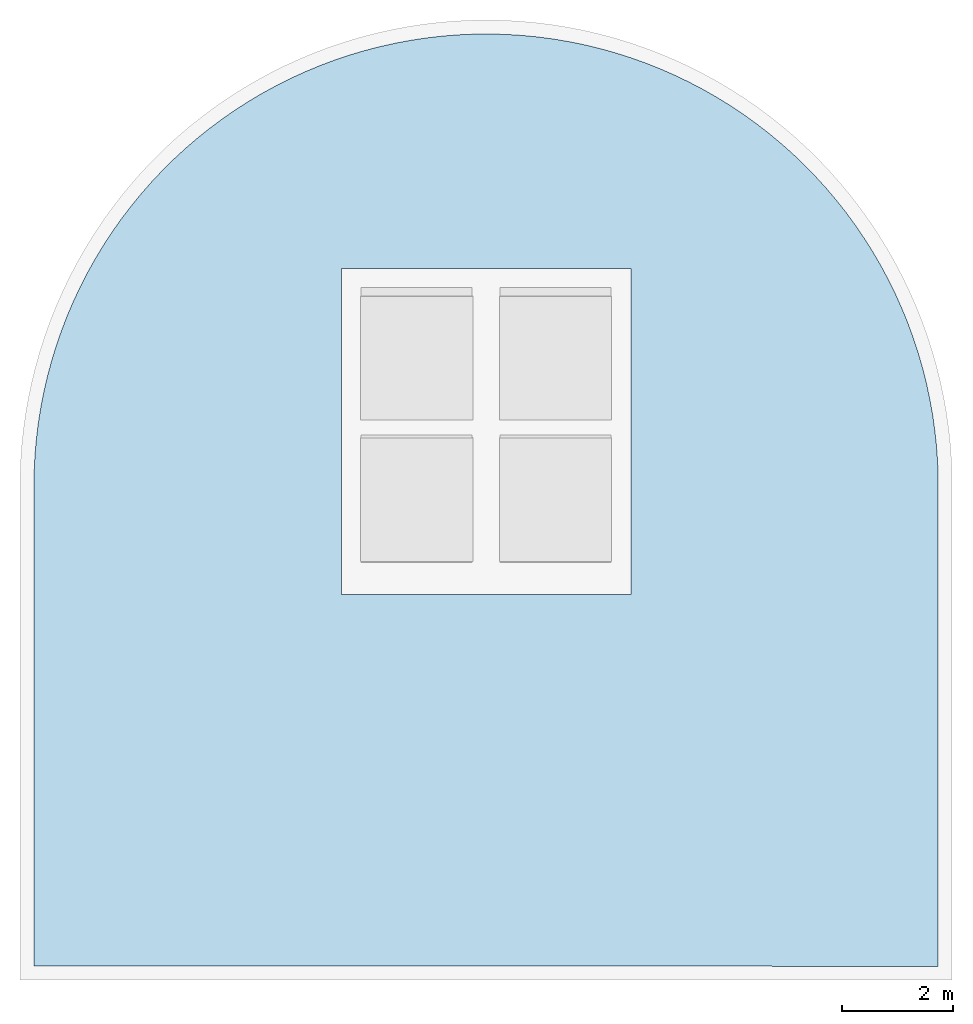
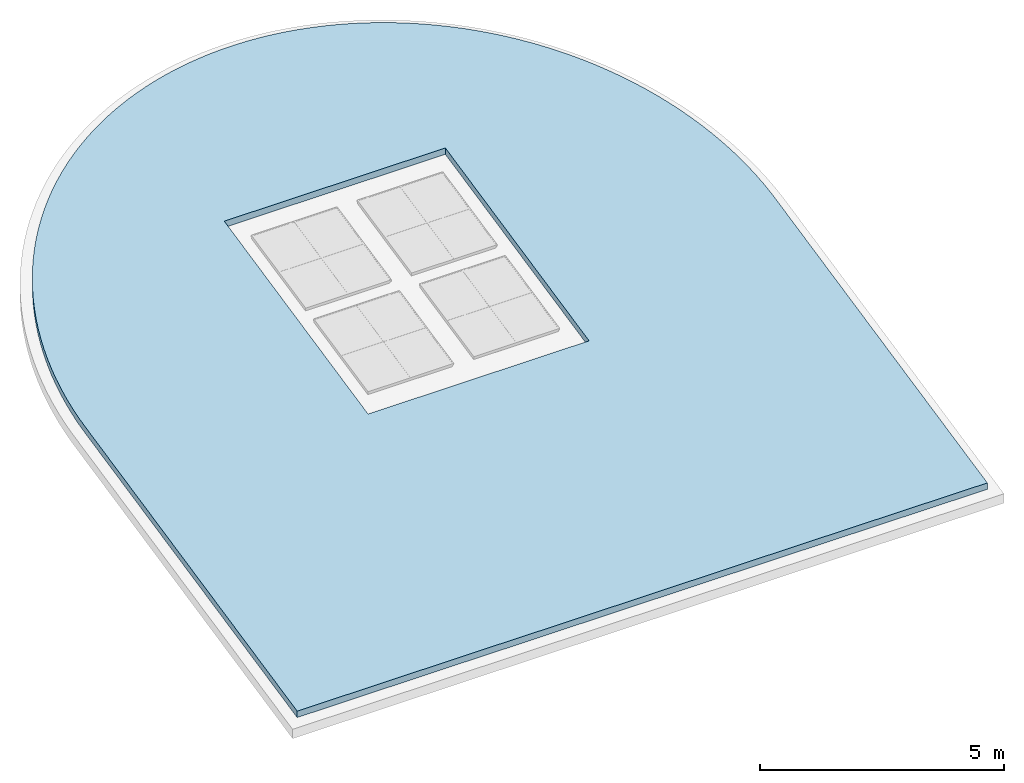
# One storey, incomplete: 1 slab.
"""IFC4 building model written with IfcOpenShell, lengths in millimetres."""

from ifc_helpers import new_model, entity, si_unit, converted_unit, derived_unit, direction, frame, origin_with_axes, place, context, subcontext, project, spatial, polygons, material, type_object, element, save


model = new_model("IFC4")

# Units and contexts
model_context = context("Model", 3, precision=0.01, world=origin_with_axes(), true_north=direction((0.0, 1.0)))
body_context = subcontext(model_context, "Body", "Model", "MODEL_VIEW")
ifc_project = project(units=[si_unit("LENGTHUNIT", "METRE", prefix="MILLI"), si_unit("AREAUNIT", "SQUARE_METRE"), si_unit("VOLUMEUNIT", "CUBIC_METRE"), converted_unit("PLANEANGLEUNIT", "DEGREE", entity("IfcPlaneAngleMeasure", 0.0174532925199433), si_unit("PLANEANGLEUNIT", "RADIAN"), dimensions=[0, 0, 0, 0, 0, 0, 0]), converted_unit("TIMEUNIT", "Year", entity("IfcTimeMeasure", 31557600.0), si_unit("TIMEUNIT", "SECOND"), dimensions=[0, 0, 1, 0, 0, 0, 0]), si_unit("MASSUNIT", "GRAM", prefix="KILO"), si_unit("THERMODYNAMICTEMPERATUREUNIT", "DEGREE_CELSIUS"), si_unit("LUMINOUSINTENSITYUNIT", "LUMEN"), si_unit("ENERGYUNIT", "JOULE", prefix="MEGA"), derived_unit("THERMALCONDUCTANCEUNIT", [(si_unit("POWERUNIT", "WATT"), 1), (si_unit("LENGTHUNIT", "METRE"), -1), (si_unit("THERMODYNAMICTEMPERATUREUNIT", "KELVIN"), -1)]), derived_unit("SPECIFICHEATCAPACITYUNIT", [(si_unit("ENERGYUNIT", "JOULE"), 1), (si_unit("MASSUNIT", "GRAM", prefix="KILO"), -1), (si_unit("THERMODYNAMICTEMPERATUREUNIT", "KELVIN"), -1)]), derived_unit("MASSDENSITYUNIT", [(si_unit("MASSUNIT", "GRAM", prefix="KILO"), 1), (si_unit("VOLUMEUNIT", "CUBIC_METRE"), -1)])], contexts=[model_context])

# Site, building, storey
site_placement = place(None, origin_with_axes())
site = spatial("IfcSite", under=ifc_project, at=site_placement, Name="Exteriér", CompositionType="ELEMENT")
building_placement = place(site_placement, origin_with_axes())
building = spatial("IfcBuilding", under=site, at=building_placement, Name="Univerzitní lezecké centrum", CompositionType="ELEMENT")
storey_placement = place(building_placement, frame((0.0, 0.0, 12800.0), z_axis=(0.0, 0.0, 1.0), x_axis=(1.0, 0.0, 0.0)))
storey = spatial("IfcBuildingStorey", under=building, at=storey_placement, Name="Střecha", CompositionType="ELEMENT", Elevation=12800.0)

# Slab
ifc_material = material(Name="Kačírek - frakce 16/32")
slab_type = type_object("IfcSlabType", Name="Kačírek - frakce 16/32 157", PredefinedType="ROOF")
slab_placement = place(storey_placement, frame((-4450.148401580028, -15002.51969503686, -3084.157369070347), z_axis=(0.0, 0.0, 1.0), x_axis=(1.0, 0.0, 0.0)))
element("IfcSlab", 1, at=slab_placement, inside=storey, type_object=slab_type, material=ifc_material, Name="S01", PredefinedType="ROOF", context=body_context, shape_type="Tessellation", body=[
    polygons([(15048.00005491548, 14747.01969408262, 3294.575801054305), (15047.9967137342, 23545.54068845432, 5164.75917139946), (15037.95842195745, 23831.4064963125, 5225.521824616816), (15017.89402871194, 24116.74392380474, 5286.172167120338), (14987.82825323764, 24401.20143653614, 5346.635477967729), (14947.79813643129, 24684.42858416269, 5406.837266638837), (14897.85299521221, 24966.07643214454, 5466.703364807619), (14838.05436176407, 25245.79799163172, 5526.16001771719), (14768.47590772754, 25523.24864695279, 5585.133975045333), (14689.20335343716, 25798.08658017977, 5643.552581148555), (14600.33436231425, 26069.97319224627, 5701.34386457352), (14501.9784205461, 26338.57352009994, 5758.436626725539), (14394.25670219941, 26603.55664937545, 5814.760529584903), (14277.30191993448, 26864.59612207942, 5870.246182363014), (14151.25816150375, 27121.37033878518, 5924.825226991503), (14016.28071223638, 27373.56295484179, 5978.430422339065), (13872.53586372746, 27620.86327010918, 6030.995727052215), (13720.20070896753, 27862.9666117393, 6082.456380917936), (13559.4629241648, 28099.57470953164, 6132.748984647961), (13390.52053752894, 28330.39606340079, 6181.811577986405), (13213.58168530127, 28555.14630250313, 6229.583716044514), (13028.86435533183, 28773.54853558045, 6276.006543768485), (12836.59611851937, 28985.33369208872, 6321.022868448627), (12637.01384844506, 29190.24085369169, 6364.577230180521), (12430.3634295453, 29388.01757571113, 6406.615970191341), (12216.89945418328, 29578.42019813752, 6447.08729694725), (11996.88490899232, 29761.21414581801, 6485.941349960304), (11770.59085087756, 29936.17421745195, 6523.130261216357), (11538.2960730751, 30103.08486303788, 6558.608214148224), (11300.28676168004, 30261.74044943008, 6592.331500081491), (11056.85614306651, 30411.94551367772, 6624.258572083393), (10808.30412263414, 30553.51500383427, 6654.35009614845), (10554.93691532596, 30686.27450694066, 6682.568999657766), (10297.06666837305, 30810.06046390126, 6708.880517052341), (10035.01107673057, 30924.72037098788, 6733.25223266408), (9769.09299167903, 31030.11296772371, 6755.654120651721), (9499.640023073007, 31126.10841091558, 6776.058581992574), (9226.984135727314, 31212.58843462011, 6794.440478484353), (8951.461240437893, 31289.44649584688, 6810.777163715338), (8673.41078014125, 31356.58790581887, 6825.048510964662), (8393.175311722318, 31413.92994662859, 6837.236937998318), (8111.100083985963, 31461.40197314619, 6847.327428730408), (7827.532612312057, 31498.94550005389, 6855.307551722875), (7542.822250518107, 31526.51427389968, 6861.167475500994), (7257.319760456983, 31544.0743300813, 6864.899980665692), (6971.376879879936, 31551.60403469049, 6866.500468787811), (6685.345889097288, 31549.09411116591, 6865.966968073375), (6399.579176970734, 31536.54765172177, 6863.300135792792), (6114.428806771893, 31513.98011353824, 6858.503257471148), (5830.246082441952, 31481.41929971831, 6851.582242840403), (5547.381115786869, 31438.90532503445, 6842.545618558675), (5266.182395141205, 31386.49056650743, 6831.40451770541), (4986.996356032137, 31324.23959887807, 6818.17266606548), (4710.166954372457, 31252.22911505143, 6802.866365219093), (4436.035242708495, 31170.54783161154, 6785.504472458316), (4164.938950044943, 31079.29637952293, 6766.108377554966), (3897.212065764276, 30978.58718015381, 6744.701976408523), (3633.18442815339, 30868.5443067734, 6721.311641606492), (3373.181318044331, 30749.30333169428, 6695.966189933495), (3117.523058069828, 30621.0111592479, 6668.696846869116), (2866.524618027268, 30483.82584479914, 6639.537208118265), (2620.495226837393, 30337.9164000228, 6608.523198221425), (2379.73799157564, 30183.46258468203, 6575.693026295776), (2144.549524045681, 30020.65468516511, 6541.08713896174), (1915.219575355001, 29849.69328005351, 6504.748170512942), (1692.030678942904, 29670.78899300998, 6466.720890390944), (1475.257802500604, 29484.1622332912, 6427.052148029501), (1265.16800921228, 29290.04292420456, 6385.790815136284), (1062.020128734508, 29088.67021984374, 6342.987725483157), (866.0644383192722, 28880.29221045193, 6298.695612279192), (677.5423544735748, 28665.16561677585, 6252.969043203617), (496.6861355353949, 28443.55547378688, 6205.864353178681), (323.7185955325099, 28215.73480415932, 6157.439574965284), (158.8528296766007, 27981.98428190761, 6107.754367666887), (2.291951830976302, 27742.5918865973, 6056.869943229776), (-145.7711557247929, 27497.85254855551, 6004.848991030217), (-285.1540799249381, 27248.06778551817, 5951.755600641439), (-415.6851016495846, 26993.54533116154, 5897.65518287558), (-537.2034072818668, 26734.59875597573, 5842.614389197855), (-649.5592868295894, 26471.5470809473, 5786.701029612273), (-752.6143183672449, 26204.71438452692, 5729.983989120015), (-846.2415385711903, 25934.42940336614, 5672.533142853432), (-930.3255991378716, 25661.02512731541, 5614.419269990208), (-1004.762908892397, 25384.83838918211, 5555.713966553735), (-1069.46176141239, 25106.20944975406, 5496.489557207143), (-1124.342448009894, 24825.48157859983, 5436.819006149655), (-1169.337355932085, 24543.00063116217, 5376.775827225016), (-1204.391051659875, 24259.11462266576, 5316.433993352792), (-1229.460349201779, 23974.173299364, 5255.867845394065), (-1244.514363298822, 23688.52770765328, 5195.152000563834), (-1248.279448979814, 23402.52976080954, 5134.361260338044), (-1247.000294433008, 14754.51969503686, 3296.16997546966), (3530.46782133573, 14754.51969498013, 3296.169975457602), (3530.467821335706, 14752.51969498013, 3295.744862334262), (10414.25656079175, 14752.51969498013, 3295.744862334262), (9509.850841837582, 21446.0680775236, 4718.502491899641), (4289.999999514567, 21446.0680775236, 4718.502491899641), (4289.999999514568, 27326.09003527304, 5968.339741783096), (9509.850841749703, 27326.09003518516, 5968.339741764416), (15048.00006766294, 14747.01969434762, 3134.575801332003), (15047.99672607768, 23545.54033756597, 5004.759097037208), (15037.95842176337, 23831.40649524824, 5065.521824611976), (15017.89402847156, 24116.74392612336, 5126.172167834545), (14987.82825312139, 24401.20143392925, 5186.63547763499), (14947.79813634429, 24684.42858487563, 5246.837267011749), (14897.85299516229, 24966.07643341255, 5306.703365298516), (14838.05436185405, 25245.79799119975, 5366.160017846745), (14768.47590790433, 25523.24864612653, 5425.133975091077), (14689.20335306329, 25798.08658173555, 5483.552581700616), (14600.33436276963, 26069.97318995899, 5541.343864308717), (14501.97842053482, 26338.57351991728, 5598.436626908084), (14394.2567017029, 26603.55665108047, 5654.760530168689), (14277.30192044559, 26864.59612036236, 5710.246182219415), (14151.25816108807, 27121.3703393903, 5764.825227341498), (14016.28071264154, 27373.56295411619, 5818.430422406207), (13872.53586335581, 27620.86327113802, 5870.995727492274), (13720.20070952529, 27862.96661107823, 5922.456380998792), (13559.46292308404, 28099.57471170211, 5972.748985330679), (13390.52053784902, 28330.39606256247, 6021.811578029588), (13213.58168658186, 28555.14629999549, 6069.58371573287), (13028.864353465, 28773.54853798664, 6116.006544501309), (12836.59612017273, 28985.33368974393, 6161.022868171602), (12637.01384813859, 29190.24085420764, 6204.577230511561), (12430.36342941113, 29388.01757635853, 6246.615970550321), (12216.89945367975, 29578.42019922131, 6287.087297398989), (11996.88490981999, 29761.21414520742, 6325.941350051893), (11770.5908511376, 29936.17421700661, 6363.130261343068), (11538.29607321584, 30103.08486248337, 6398.608214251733), (11300.2867609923, 30261.74044964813, 6432.331500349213), (11056.85614333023, 30411.94551319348, 6464.258572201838), (10808.30412270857, 30553.51500341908, 6494.35009628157), (10554.93691557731, 30686.27450649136, 6522.568999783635), (10297.06666770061, 30810.06046395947, 6548.880517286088), (10035.01107684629, 30924.72037051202, 6573.252232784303), (9769.092991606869, 31030.112967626, 6595.654120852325), (9499.640023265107, 31126.10841077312, 6616.058582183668), (9226.984135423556, 31212.58843467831, 6634.440478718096), (8951.46124129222, 31289.44649524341, 6650.77716380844), (8673.410779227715, 31356.58790620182, 6665.048511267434), (8393.175311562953, 31413.92994672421, 6677.236938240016), (8111.100083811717, 31461.4019735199, 6687.327429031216), (7827.532612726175, 31498.94550006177, 6695.307551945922), (7542.822250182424, 31526.51427379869, 6701.1674757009), (7257.319760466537, 31544.07433005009, 6704.899980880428), (6971.376879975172, 31551.60403507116, 6706.500469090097), (6685.345889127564, 31549.09411153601, 6705.966968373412), (6399.579176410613, 31536.54765126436, 6703.300135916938), (6114.428806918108, 31513.98011347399, 6698.50325767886), (5830.246082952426, 31481.41930011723, 6691.582243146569), (5547.381115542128, 31438.90532461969, 6682.545618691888), (5266.182395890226, 31386.49056649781, 6671.404517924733), (4986.996356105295, 31324.23959844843, 6658.172666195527), (4710.166954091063, 31252.22911458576, 6642.866365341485), (4436.035242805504, 31170.54783162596, 6625.504472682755), (4164.93895041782, 31079.2963799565, 6606.108377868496), (3897.212066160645, 30978.58718041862, 6584.701976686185), (3633.184427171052, 30868.54430588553, 6561.311641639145), (3373.181318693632, 30749.30333195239, 6535.966190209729), (3117.523057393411, 30621.01115853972, 6508.696846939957), (2866.524619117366, 30483.82584545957, 6479.537208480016), (2620.495226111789, 30337.91639916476, 6448.523198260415), (2379.737992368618, 30183.46258514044, 6415.693026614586), (2144.549523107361, 30020.65468430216, 6381.087138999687), (1915.219577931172, 29849.69328264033, 6344.748171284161), (1692.030676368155, 29670.78899009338, 6306.720889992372), (1475.257803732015, 29484.16223467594, 6267.052148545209), (1265.16800961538, 29290.04292498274, 6225.790815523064), (1062.020128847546, 29088.67022020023, 6182.987725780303), (866.0644388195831, 28880.29221082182, 6138.695612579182), (677.5423533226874, 28665.16561462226, 6092.96904296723), (496.6861354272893, 28443.55547372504, 6045.864353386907), (323.7185961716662, 28215.73480580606, 5997.439575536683), (158.8528304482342, 27981.98428347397, 5947.754368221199), (2.291950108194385, 27742.59188303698, 5896.869942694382), (-145.771154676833, 27497.85255092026, 5844.848991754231), (-285.1540806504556, 27248.06778401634, 5791.755600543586), (-415.6851009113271, 26993.54533272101, 5737.655183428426), (-537.2034073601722, 26734.59875502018, 5682.614389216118), (-649.5592870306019, 26471.54707970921, 5626.70102957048), (-752.6143178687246, 26204.71438637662, 5569.983989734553), (-846.241538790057, 25934.42940279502, 5512.533142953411), (-930.3255986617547, 25661.02512971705, 5454.419270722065), (-1004.7629090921, 25384.83838651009, 5395.71396620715), (-1069.461761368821, 25106.2094487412, 5336.489557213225), (-1124.342447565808, 24825.48158216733, 5276.819007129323), (-1169.337356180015, 24543.00062698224, 5216.77582655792), (-1204.391051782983, 24259.11462558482, 5156.43399419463), (-1229.460349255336, 23974.17330071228, 5095.867845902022), (-1244.514362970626, 23688.5277064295, 5035.152000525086), (-1248.274689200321, 23402.8912922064, 4974.43810643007), (-1246.995481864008, 14754.51969535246, 3136.169975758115), (3530.467821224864, 14754.51969535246, 3136.169975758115), (3530.467821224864, 14752.51969508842, 3135.744862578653), (10414.25656052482, 14752.51969508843, 3135.744862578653), (9509.850841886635, 21446.06807768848, 4558.502492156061), (4289.999999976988, 21446.06807768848, 4558.502492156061), (4289.999999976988, 27326.09003494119, 5808.339741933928), (9509.850841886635, 27326.09003494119, 5808.339741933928)], [[[1, 2, 3, 4, 5, 6, 7, 8, 9, 10, 11, 12, 13, 14, 15, 16, 17, 18, 19, 20, 21, 22, 23, 24, 25, 26, 27, 28, 29, 30, 31, 32, 33, 34, 35, 36, 37, 38, 39, 40, 41, 42, 43, 44, 45, 46, 47, 48, 49, 50, 51, 52, 53, 54, 55, 56, 57, 58, 59, 60, 61, 62, 63, 64, 65, 66, 67, 68, 69, 70, 71, 72, 73, 74, 75, 76, 77, 78, 79, 80, 81, 82, 83, 84, 85, 86, 87, 88, 89, 90, 91, 92, 93, 94, 95], [96, 97, 98, 99]], [[2, 1, 100, 101]], [[3, 2, 101, 102]], [[4, 3, 102, 103]], [[5, 4, 103, 104]], [[6, 5, 104, 105]], [[7, 6, 105, 106]], [[8, 7, 106, 107]], [[9, 8, 107, 108]], [[10, 9, 108, 109]], [[11, 10, 109, 110]], [[12, 11, 110, 111]], [[13, 12, 111, 112]], [[14, 13, 112, 113]], [[15, 14, 113, 114]], [[16, 15, 114, 115]], [[17, 16, 115, 116]], [[18, 17, 116, 117]], [[19, 18, 117, 118]], [[20, 19, 118, 119]], [[21, 20, 119, 120]], [[22, 21, 120, 121]], [[23, 22, 121, 122]], [[24, 23, 122, 123]], [[25, 24, 123, 124]], [[26, 25, 124, 125]], [[27, 26, 125, 126]], [[28, 27, 126, 127]], [[29, 28, 127, 128]], [[30, 29, 128, 129]], [[31, 30, 129, 130]], [[32, 31, 130, 131]], [[33, 32, 131, 132]], [[34, 33, 132, 133]], [[35, 34, 133, 134]], [[36, 35, 134, 135]], [[37, 36, 135, 136]], [[38, 37, 136, 137]], [[39, 38, 137, 138]], [[40, 39, 138, 139]], [[41, 40, 139, 140]], [[42, 41, 140, 141]], [[43, 42, 141, 142]], [[44, 43, 142, 143]], [[45, 44, 143, 144]], [[46, 45, 144, 145]], [[47, 46, 145, 146]], [[48, 47, 146, 147]], [[49, 48, 147, 148]], [[50, 49, 148, 149]], [[51, 50, 149, 150]], [[52, 51, 150, 151]], [[53, 52, 151, 152]], [[54, 53, 152, 153]], [[55, 54, 153, 154]], [[56, 55, 154, 155]], [[57, 56, 155, 156]], [[58, 57, 156, 157]], [[59, 58, 157, 158]], [[60, 59, 158, 159]], [[61, 60, 159, 160]], [[62, 61, 160, 161]], [[63, 62, 161, 162]], [[64, 63, 162, 163]], [[65, 64, 163, 164]], [[66, 65, 164, 165]], [[67, 66, 165, 166]], [[68, 67, 166, 167]], [[69, 68, 167, 168]], [[70, 69, 168, 169]], [[71, 70, 169, 170]], [[72, 71, 170, 171]], [[73, 72, 171, 172]], [[74, 73, 172, 173]], [[75, 74, 173, 174]], [[76, 75, 174, 175]], [[77, 76, 175, 176]], [[78, 77, 176, 177]], [[79, 78, 177, 178]], [[80, 79, 178, 179]], [[81, 80, 179, 180]], [[82, 81, 180, 181]], [[83, 82, 181, 182]], [[84, 83, 182, 183]], [[85, 84, 183, 184]], [[86, 85, 184, 185]], [[87, 86, 185, 186]], [[88, 87, 186, 187]], [[89, 88, 187, 188]], [[90, 89, 188, 189]], [[91, 90, 189, 190]], [[92, 91, 190, 191]], [[93, 92, 191, 192]], [[94, 93, 192, 193]], [[95, 94, 193, 194]], [[1, 95, 194, 100]], [[97, 96, 195, 196]], [[98, 97, 196, 197]], [[99, 98, 197, 198]], [[96, 99, 198, 195]], [[101, 100, 194, 193, 192, 191, 190, 189, 188, 187, 186, 185, 184, 183, 182, 181, 180, 179, 178, 177, 176, 175, 174, 173, 172, 171, 170, 169, 168, 167, 166, 165, 164, 163, 162, 161, 160, 159, 158, 157, 156, 155, 154, 153, 152, 151, 150, 149, 148, 147, 146, 145, 144, 143, 142, 141, 140, 139, 138, 137, 136, 135, 134, 133, 132, 131, 130, 129, 128, 127, 126, 125, 124, 123, 122, 121, 120, 119, 118, 117, 116, 115, 114, 113, 112, 111, 110, 109, 108, 107, 106, 105, 104, 103, 102], [196, 195, 198, 197]]], closed=True),
])

save(model, "model.ifc")
